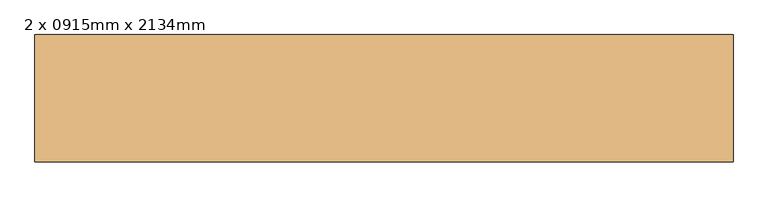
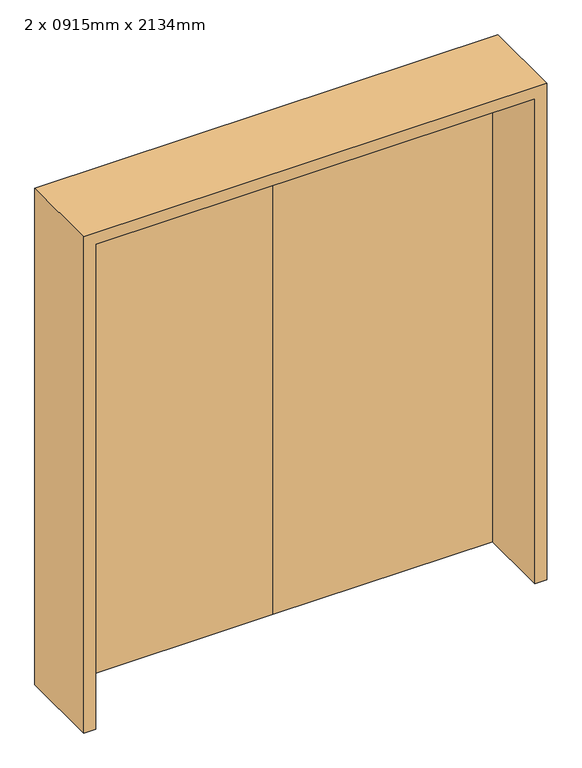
"""IFC4 building model written with IfcOpenShell, lengths in millimetres: door geometry, m-doors-hm-f2-a : 2 x 0915mm x 2134mm."""

from ifc_helpers import new_model, si_unit, frame, origin, origin_with_axes, place, context, project, spatial, polyline, outline, extrude, source, transform, mapped, element, save


def door_2_x_0915mm_x_2134mm_afd50e46(model_context):
    return source(origin(), model_context, "Body", "SweptSolid", [
        extrude(outline(polyline([(0.0, -46.5), (0.0, -1.5), (915.0, -1.5), (915.0, -46.5), (0.0, -46.5)])), origin_with_axes(), (0.0, 0.0, 1.0), 2134.0),
        extrude(outline(polyline([(0.0, -46.5), (-915.0, -46.5), (-915.0, -1.5), (0.0, -1.5), (0.0, -46.5)])), origin_with_axes(), (0.0, 0.0, 1.0), 2134.0),
        extrude(outline(polyline([(0.0, -965.0), (0.0, -915.0), (2134.0, -915.0), (2134.0, 915.0), (0.0, 915.0), (0.0, 965.0), (2184.0, 965.0), (2184.0, -965.0), (0.0, -965.0)])), frame((0.0, -351.0, 0.0), z_axis=(0.0, 1.0, 0.0), x_axis=(0.0, 0.0, 1.0)), (0.0, 0.0, 1.0), 352.0),
    ])


if __name__ == "__main__":
    model = new_model("IFC4")
    model_context = context("Model", 3, world=origin())
    ifc_project = project(units=[si_unit("LENGTHUNIT", "METRE", prefix="MILLI")], contexts=[model_context])
    site = spatial("IfcSite", under=ifc_project)
    building = spatial("IfcBuilding", under=site)
    placement = place(None, origin())
    door_2_x_0915mm_x_2134mm_shape = door_2_x_0915mm_x_2134mm_afd50e46(model_context)
    element("IfcDoor", 1, ObjectType="m-doors-hm-f2-a : 2 x 0915mm x 2134mm", at=placement, inside=building, context=model_context, shape_type="MappedRepresentation", body=[
        mapped(door_2_x_0915mm_x_2134mm_shape, transform((0.0, 0.0, 0.0), x_axis=(1.0, 0.0, 0.0), y_axis=(0.0, 1.0, 0.0), z_axis=(0.0, 0.0, 1.0))),
    ])
    save(model, "model.ifc")
